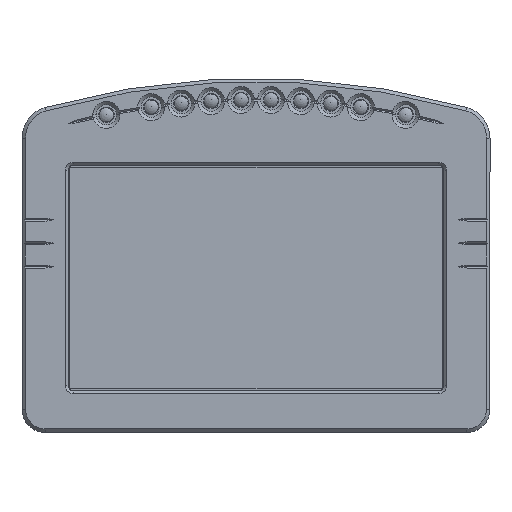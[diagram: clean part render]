
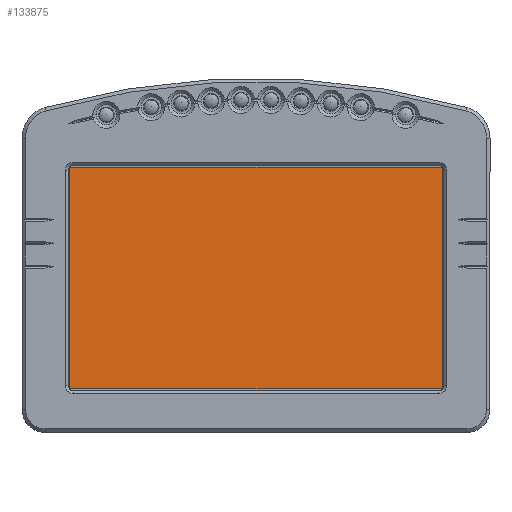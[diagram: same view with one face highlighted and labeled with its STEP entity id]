
A CAD part, top view. The second image highlights one B-rep face of the part: STEP entity #133875.
In plain terms, the highlighted planar face has unit normal (0, 0, 1).
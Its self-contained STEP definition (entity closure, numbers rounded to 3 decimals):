
#4793 = VERTEX_POINT ( 'NONE', #75018 ) ;
#5018 = CARTESIAN_POINT ( 'NONE',  ( -72.075, 73.115, -11.335 ) ) ;
#6442 = FACE_OUTER_BOUND ( 'NONE', #25066, .T. ) ;
#7851 = LINE ( 'NONE', #79835, #136819 ) ;
#11830 = AXIS2_PLACEMENT_3D ( 'NONE', #14772, #120657, #132392 ) ;
#14772 = CARTESIAN_POINT ( 'NONE',  ( -18.525, 104.99, -11.335 ) ) ;
#17194 = EDGE_CURVE ( 'NONE', #55595, #4793, #7851, .T. ) ;
#25066 = EDGE_LOOP ( 'NONE', ( #26647, #38998, #68615, #55840 ) ) ;
#26647 = ORIENTED_EDGE ( 'NONE', *, *, #74507, .T. ) ;
#29887 = VECTOR ( 'NONE', #94029, 1000. ) ;
#38998 = ORIENTED_EDGE ( 'NONE', *, *, #17194, .T. ) ;
#47278 = DIRECTION ( 'NONE',  ( 1., 0., 0. ) ) ;
#55595 = VERTEX_POINT ( 'NONE', #99591 ) ;
#55840 = ORIENTED_EDGE ( 'NONE', *, *, #126995, .T. ) ;
#68615 = ORIENTED_EDGE ( 'NONE', *, *, #74857, .T. ) ;
#70973 = CARTESIAN_POINT ( 'NONE',  ( 35.025, 73.115, -11.335 ) ) ;
#74507 = EDGE_CURVE ( 'NONE', #136916, #55595, #90358, .T. ) ;
#74857 = EDGE_CURVE ( 'NONE', #4793, #78608, #85017, .T. ) ;
#75018 = CARTESIAN_POINT ( 'NONE',  ( -72.075, 136.865, -11.335 ) ) ;
#78608 = VERTEX_POINT ( 'NONE', #116856 ) ;
#79835 = CARTESIAN_POINT ( 'NONE',  ( -72.075, 136.865, -11.335 ) ) ;
#81995 = VECTOR ( 'NONE', #47278, 1000. ) ;
#85017 = LINE ( 'NONE', #116186, #29887 ) ;
#90358 = LINE ( 'NONE', #70973, #113861 ) ;
#94029 = DIRECTION ( 'NONE',  ( 0., -1., 0. ) ) ;
#98859 = CARTESIAN_POINT ( 'NONE',  ( 35.025, 73.115, -11.335 ) ) ;
#99591 = CARTESIAN_POINT ( 'NONE',  ( 35.025, 136.865, -11.335 ) ) ;
#101210 = LINE ( 'NONE', #5018, #81995 ) ;
#110946 = DIRECTION ( 'NONE',  ( -1., 0., 0. ) ) ;
#112300 = PLANE ( 'NONE',  #11830 ) ;
#113861 = VECTOR ( 'NONE', #124250, 1000. ) ;
#116186 = CARTESIAN_POINT ( 'NONE',  ( -72.075, 73.115, -11.335 ) ) ;
#116856 = CARTESIAN_POINT ( 'NONE',  ( -72.075, 73.115, -11.335 ) ) ;
#120657 = DIRECTION ( 'NONE',  ( 0., 0., -1. ) ) ;
#124250 = DIRECTION ( 'NONE',  ( 0., 1., 0. ) ) ;
#126995 = EDGE_CURVE ( 'NONE', #78608, #136916, #101210, .T. ) ;
#132392 = DIRECTION ( 'NONE',  ( -1., 0., 0. ) ) ;
#133875 = ADVANCED_FACE ( 'NONE', ( #6442 ), #112300, .F. ) ;
#136819 = VECTOR ( 'NONE', #110946, 1000. ) ;
#136916 = VERTEX_POINT ( 'NONE', #98859 ) ;
